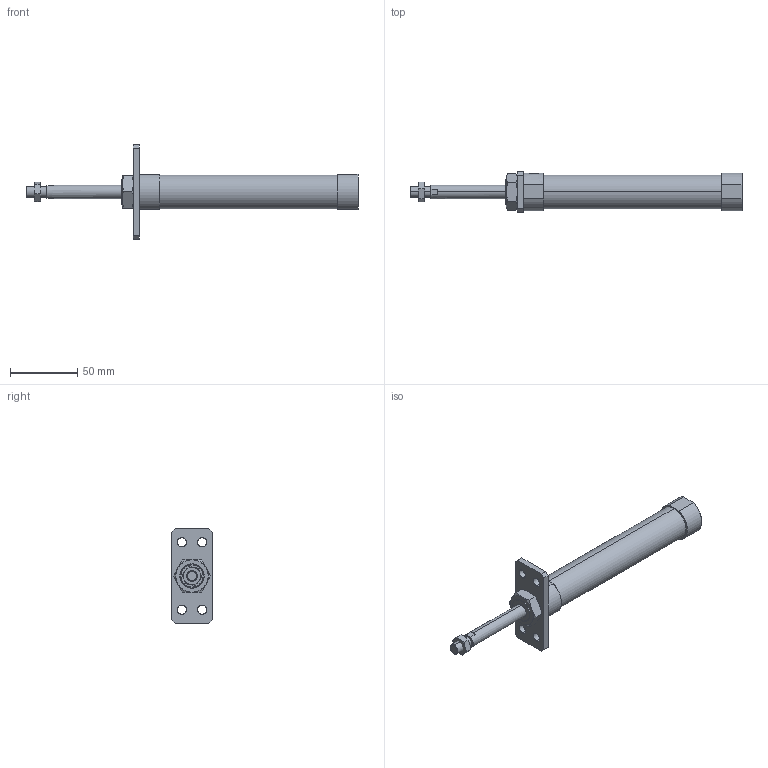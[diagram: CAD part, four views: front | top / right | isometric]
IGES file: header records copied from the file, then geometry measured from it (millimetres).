
Start section: SolidWorks IGES file using analytic representation for surfaces
Global section: file name: C:\Users\Toshiba\Desktop\JGND0-20-50-A.IGS; native system: SolidWorks 2014; preprocessor: SolidWorks 2014; author: Toshiba; date: 160804.100648; units: millimetre
Bounding box: 246 x 30 x 70 mm (x, y, z)
Surface area: 24628.3 mm2 (no closed solid volume)
Topology: 0 solids, 0 shells, 101 faces, 1770 edges, 1770 vertices
Faces by surface type: bspline 67, revolution 34
